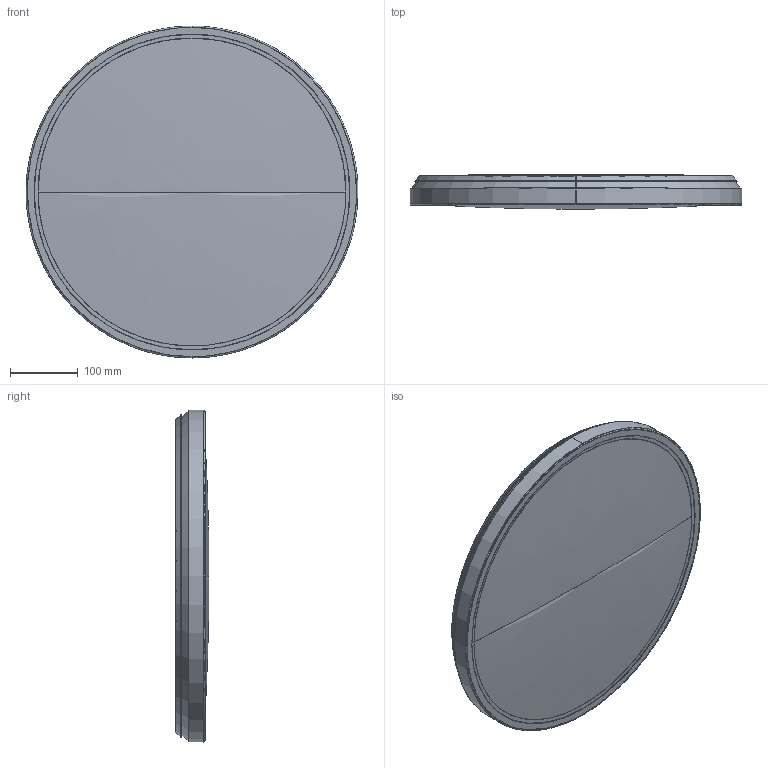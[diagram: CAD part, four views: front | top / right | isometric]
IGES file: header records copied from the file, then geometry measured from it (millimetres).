
Start section: SolidWorks IGES file using analytic representation for surfaces
Global section: file name: Z:\Modele 3D_WWW\_KOLEKCJE_WWW\AGNES\AGNES-ROUND-LED-8205-8208-8187-8184\AGNES-ROUND-LED-8205-8208-8187-8184.IGS; native system: SolidWorks 2020; preprocessor: SolidWorks 2020; author: gabriela.tworek; date: 210308.141744; units: millimetre
Bounding box: 490 x 50 x 490 mm (x, y, z)
Surface area: 902294.8 mm2 (no closed solid volume)
Topology: 0 solids, 0 shells, 48 faces, 1304 edges, 1303 vertices
Faces by surface type: revolution 26, bspline 22
